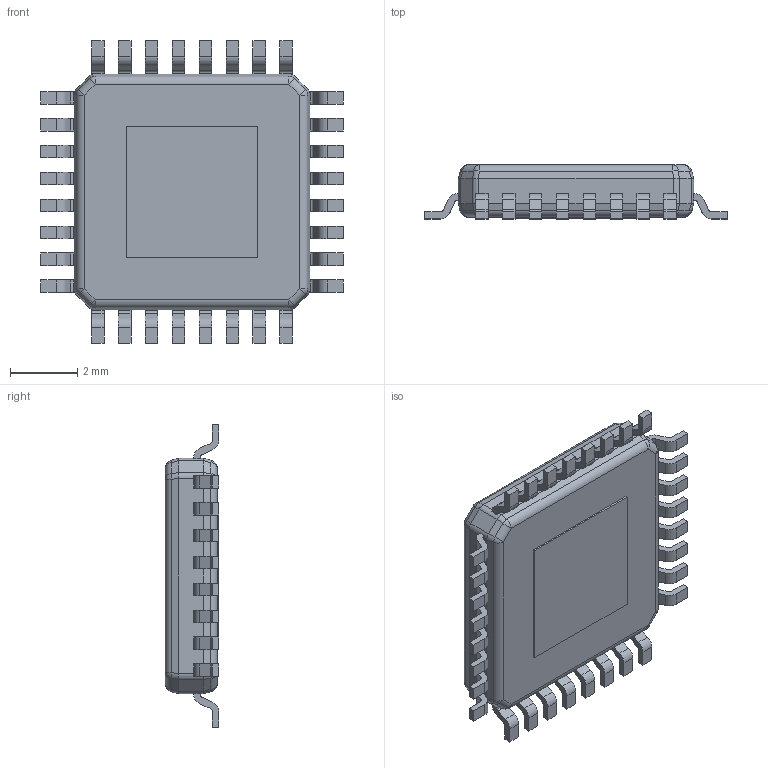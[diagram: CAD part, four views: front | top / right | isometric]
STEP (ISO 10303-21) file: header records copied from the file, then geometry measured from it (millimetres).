
FILE_DESCRIPTION (( 'STEP AP214' ), '1' );
FILE_NAME ( 'QFP33P80_900X900X160L60X37T390.STEP', '2021-10-06T06:49:12', ( '' ), ( '' ), '', '©2017 PCB Libraries, Inc.', '' );
FILE_SCHEMA (( 'AUTOMOTIVE_DESIGN' ));
Length unit declared in the file: millimetre
Products named in the file (1): QFP33P80_900X900X160L60X37T390
Bounding box: 9 x 1.6 x 9 mm (x, y, z)
Volume: 77.4 mm3; surface area: 214.2 mm2
Topology: 34 solids, 34 shells, 541 faces, 1382 edges, 894 vertices
Faces by surface type: plane 353, cylinder 170, sphere 16, torus 2
Entity records: 18207 total; most frequent: CARTESIAN_POINT 2971, ORIENTED_EDGE 2756, DIRECTION 2736, EDGE_CURVE 1378, VECTOR 1018, LINE 1018, VERTEX_POINT 902, AXIS2_PLACEMENT_3D 859
